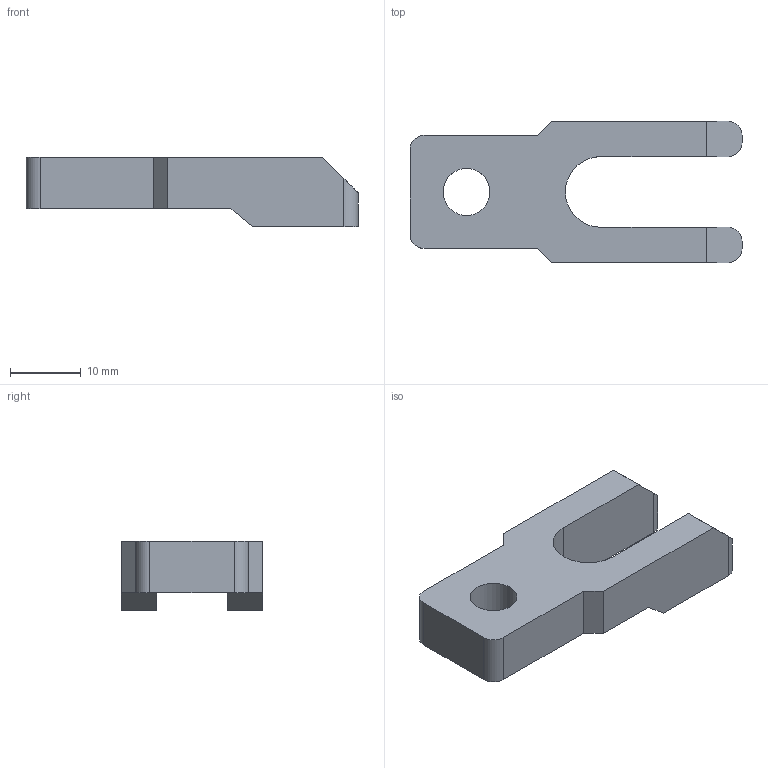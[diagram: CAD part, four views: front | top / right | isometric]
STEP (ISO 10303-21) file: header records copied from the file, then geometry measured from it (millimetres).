
FILE_DESCRIPTION(/* description */ (''),/* implementation_level */ '2;1');
FILE_NAME(/* name */ 'C:\Local Work Area\Progetti\AP\CALIBRI\90.XX PRESSINI\95.00.stp',/* time_stamp */ '2016-05-05T15:39:39+02:00',/* author */ ('CAD2'),/* organization */ (''),/* preprocessor_version */ 'ST-DEVELOPER v15.2',/* originating_system */ 'Autodesk Inventor 2014',/* authorisation */ '0 mm^3');
FILE_SCHEMA (('CONFIG_CONTROL_DESIGN'));
Length unit declared in the file: millimetre
Products named in the file (1): 95.00
Bounding box: 47 x 20 x 9.8 mm (x, y, z)
Volume: 4563.9 mm3; surface area: 2707.4 mm2
Topology: 1 solids, 1 shells, 27 faces, 76 edges, 51 vertices
Faces by surface type: plane 19, cylinder 8
Full cylindrical faces by diameter (mm): 6.647 x1
Entity records: 888 total; most frequent: CARTESIAN_POINT 152, ORIENTED_EDGE 148, DIRECTION 146, EDGE_CURVE 74, LINE 58, VECTOR 58, VERTEX_POINT 50, AXIS2_PLACEMENT_3D 44
